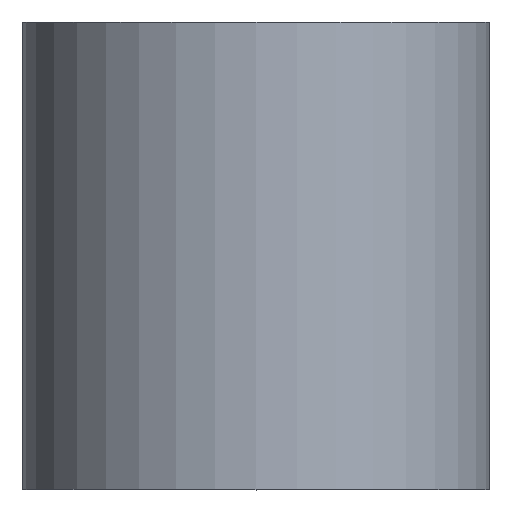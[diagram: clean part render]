
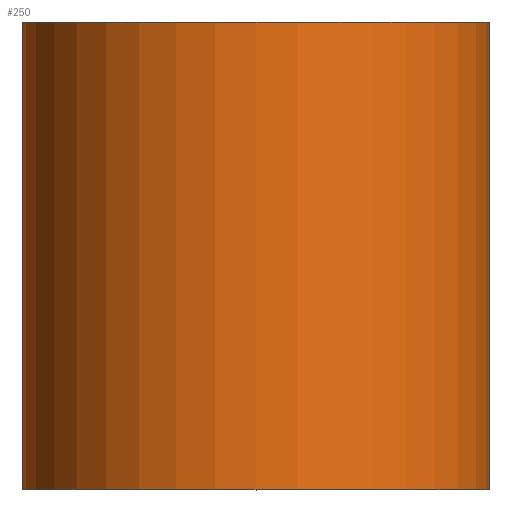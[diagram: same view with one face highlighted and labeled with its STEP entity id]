
A CAD part, top view. The second image highlights one B-rep face of the part: STEP entity #250.
In plain terms, the highlighted cylindrical face has radius 4 mm (diameter 8 mm), a partial arc.
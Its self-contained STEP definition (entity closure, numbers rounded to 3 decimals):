
#6 = ORIENTED_EDGE ( 'NONE', *, *, #233, .F. ) ;
#17 = ORIENTED_EDGE ( 'NONE', *, *, #29, .F. ) ;
#22 = DIRECTION ( 'NONE',  ( 0., 1., 0. ) ) ;
#25 = CYLINDRICAL_SURFACE ( 'NONE', #59, 4. ) ;
#29 = EDGE_CURVE ( 'NONE', #224, #39, #286, .T. ) ;
#35 = AXIS2_PLACEMENT_3D ( 'NONE', #169, #22, #49 ) ;
#39 = VERTEX_POINT ( 'NONE', #287 ) ;
#45 = CARTESIAN_POINT ( 'NONE',  ( -4., 0., 0. ) ) ;
#46 = DIRECTION ( 'NONE',  ( 0., 1., 0. ) ) ;
#49 = DIRECTION ( 'NONE',  ( -1., 0., 0. ) ) ;
#59 = AXIS2_PLACEMENT_3D ( 'NONE', #168, #46, #294 ) ;
#74 = ORIENTED_EDGE ( 'NONE', *, *, #179, .T. ) ;
#79 = VECTOR ( 'NONE', #167, 1000. ) ;
#88 = CARTESIAN_POINT ( 'NONE',  ( -4., 0., 0. ) ) ;
#90 = VERTEX_POINT ( 'NONE', #271 ) ;
#101 = AXIS2_PLACEMENT_3D ( 'NONE', #255, #253, #145 ) ;
#103 = EDGE_LOOP ( 'NONE', ( #74, #141, #6, #17 ) ) ;
#108 = LINE ( 'NONE', #185, #79 ) ;
#114 = DIRECTION ( 'NONE',  ( 0., 1., 0. ) ) ;
#141 = ORIENTED_EDGE ( 'NONE', *, *, #259, .T. ) ;
#145 = DIRECTION ( 'NONE',  ( -1., 0., 0. ) ) ;
#161 = VERTEX_POINT ( 'NONE', #278 ) ;
#167 = DIRECTION ( 'NONE',  ( 0., 1., 0. ) ) ;
#168 = CARTESIAN_POINT ( 'NONE',  ( 0., 0., 0. ) ) ;
#169 = CARTESIAN_POINT ( 'NONE',  ( 0., 8., 0. ) ) ;
#173 = FACE_OUTER_BOUND ( 'NONE', #103, .T. ) ;
#179 = EDGE_CURVE ( 'NONE', #224, #90, #236, .T. ) ;
#185 = CARTESIAN_POINT ( 'NONE',  ( 4., 0., 0. ) ) ;
#221 = CIRCLE ( 'NONE', #35, 4. ) ;
#224 = VERTEX_POINT ( 'NONE', #45 ) ;
#233 = EDGE_CURVE ( 'NONE', #39, #161, #221, .T. ) ;
#236 = CIRCLE ( 'NONE', #101, 4. ) ;
#250 = ADVANCED_FACE ( 'NONE', ( #173 ), #25, .T. ) ;
#253 = DIRECTION ( 'NONE',  ( 0., 1., 0. ) ) ;
#255 = CARTESIAN_POINT ( 'NONE',  ( 0., 0., 0. ) ) ;
#259 = EDGE_CURVE ( 'NONE', #90, #161, #108, .T. ) ;
#271 = CARTESIAN_POINT ( 'NONE',  ( 4., 0., 0. ) ) ;
#278 = CARTESIAN_POINT ( 'NONE',  ( 4., 8., 0. ) ) ;
#286 = LINE ( 'NONE', #88, #299 ) ;
#287 = CARTESIAN_POINT ( 'NONE',  ( -4., 8., 0. ) ) ;
#294 = DIRECTION ( 'NONE',  ( -1., 0., 0. ) ) ;
#299 = VECTOR ( 'NONE', #114, 1000. ) ;
